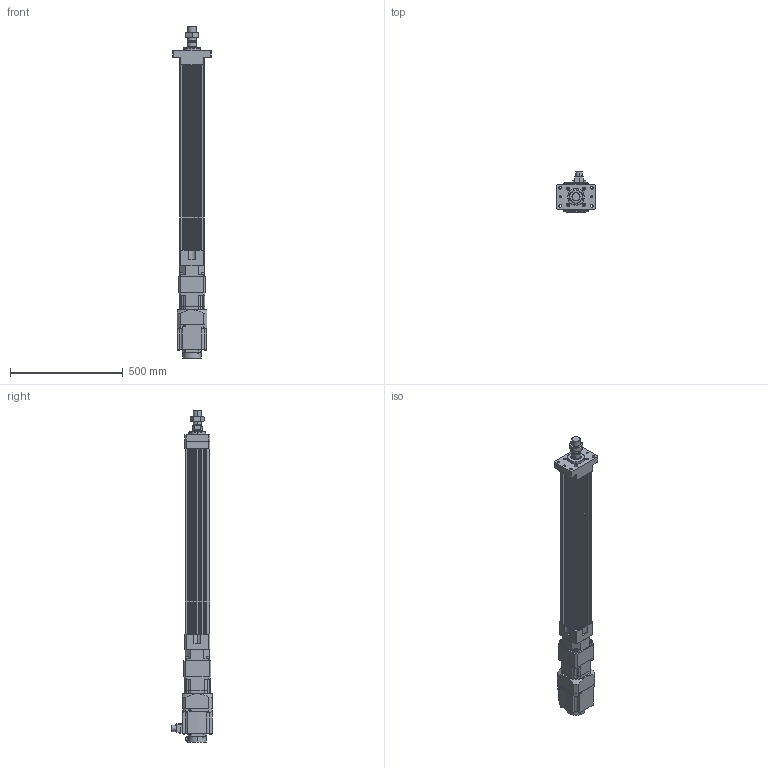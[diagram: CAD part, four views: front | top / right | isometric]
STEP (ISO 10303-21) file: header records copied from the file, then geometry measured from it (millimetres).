
FILE_DESCRIPTION (( 'STEP AP203' ), '1' );
FILE_NAME ('HES110NS(HS)-S650-W015G00-M-FM.STEP', '2023-01-28T06:50:55', ( 'tms' ), ( '' ), 'SwSTEP 2.0', 'SolidWorks 2013', '' );
FILE_SCHEMA (( 'CONFIG_CONTROL_DESIGN' ));
Length unit declared in the file: millimetre
Products named in the file (8): M36X1.5P; HG-SR152; HES110-S650-G120-FM; HES110NS(HS)-S650-W015G00-M-FM; AB115-003[HG-SR152]; HES110 ROD M ST650; P0401400706; AB1151
Assembly tree (7 placements, depth 3):
  HES110NS(HS)-S650-W015G00-M-FM
    HES110-S650-G120-FM
    HES110 ROD M ST650
    M36X1.5P
    AB115-003[HG-SR152]
      AB1151
      P0401400706
    HG-SR152
Bounding box: 170 x 177.49 x 1471.5 mm (x, y, z)
Volume: 9508258.2 mm3; surface area: 1349237.7 mm2
Topology: 4 solids, 15 shells, 1170 faces, 2958 edges, 1925 vertices
Faces by surface type: plane 559, cylinder 525, cone 74, bspline 8, torus 4
Entity records: 36974 total; most frequent: CARTESIAN_POINT 7028, DIRECTION 6389, ORIENTED_EDGE 5864, EDGE_CURVE 2942, AXIS2_PLACEMENT_3D 2346, VERTEX_POINT 1925, VECTOR 1697, LINE 1697
